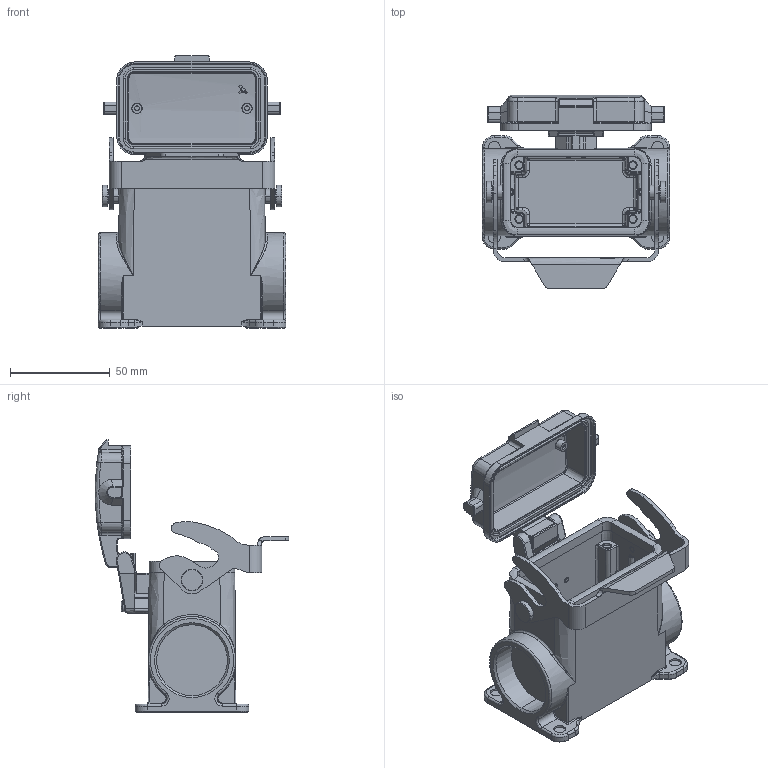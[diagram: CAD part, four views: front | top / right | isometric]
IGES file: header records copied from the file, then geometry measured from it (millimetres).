
Start section:  PTC IGES file: c-t1660103129-000-a-3d.igs
Global section: file name: c-t1660103129-000-a-3d.igs; native system: Creo Parametric by PTC Inc.; preprocessor: 2016050; author: workeradm; organization: Unknown; units: millimetre
Bounding box: 94 x 97.01 x 136.45 mm (x, y, z)
Surface area: 69335.6 mm2 (no closed solid volume)
Topology: 0 solids, 0 shells, 860 faces, 4148 edges, 4148 vertices
Faces by surface type: revolution 549, bspline 311
